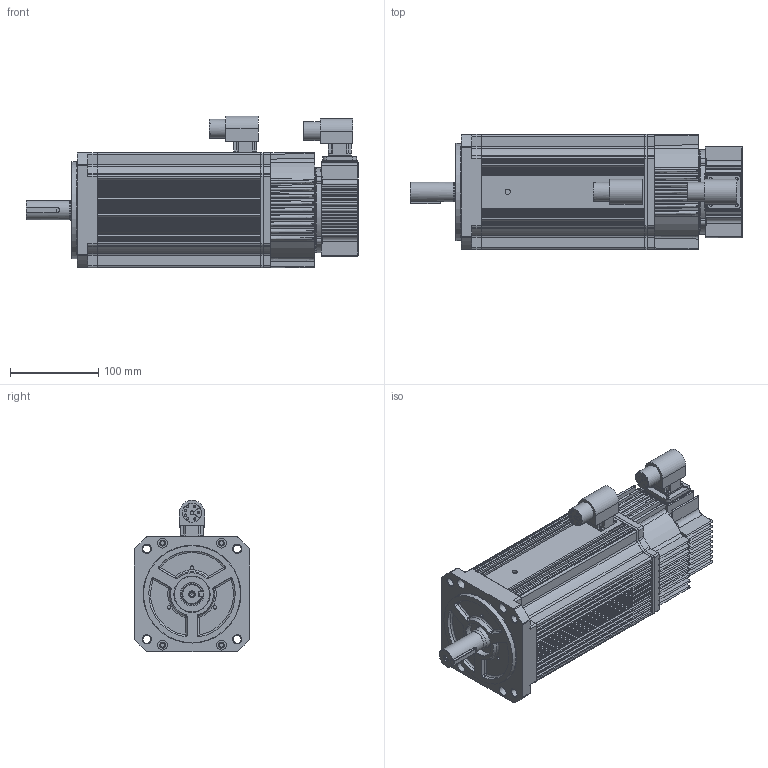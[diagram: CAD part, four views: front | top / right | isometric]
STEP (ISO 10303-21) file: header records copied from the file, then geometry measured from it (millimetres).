
FILE_DESCRIPTION( ( 'Unknown' ), '1' );
FILE_NAME( 'C:/Documents and Settings/chasechiu/桌面/2D&3D帶煞/DTSB13302B3/DTSB13302B3BG3D0K & DTSB13302B-380V機種.stp', 'Unknown', ( 'Unknown' ), ( 'Unknown' ), 'PSStep 14.0', 'Unknown', ' ' );
FILE_SCHEMA( ( 'AUTOMOTIVE_DESIGN { 1 0 10303 214 1 1 1 1 }' ) );
Length unit declared in the file: millimetre
Products named in the file (14): 0S180JLB7BA0P-00_0; 0S331JLA0BP01-00_0; Assem1; 0S302J0A1BP01-01_0; 0S363JD0584BP-01_0; ___(_擗); ___(___δ_; 0S861JA152111-02; \X2\51F8625867B\X0\; \X2\4FDD84C\X0\; 1KW\X2\4EE54E0A752853F05EA\X0\; \X2\8ECD898F96326C34588A724\X0\; \X2\50C5524D7AEF542B937569FD8EF\X0\; \X2\937\X0\
Assembly tree (13 placements, depth 3):
  Assem1
    0S302J0A1BP01-01_0
    0S363JD0584BP-01_0
    ___(_擗)
    ___(___δ_
    0S861JA152111-02
    \X2\51F8625867B\X0\
    \X2\4FDD84C\X0\
    1KW\X2\4EE54E0A752853F05EA\X0\
    \X2\8ECD898F96326C34588A724\X0\
    \X2\50C5524D7AEF542B937569FD8EF\X0\
    \X2\937\X0\
    0S180JLB7BA0P-00_0
      0S331JLA0BP01-00_0
Bounding box: 376.3 x 130.4 x 171.6 mm (x, y, z)
Volume: 4359004.5 mm3; surface area: 441550.4 mm2
Topology: 12 solids, 12 shells, 1747 faces, 4627 edges, 2968 vertices
Faces by surface type: cylinder 773, plane 663, torus 147, bspline 78, cone 66, sphere 20
Full cylindrical faces by diameter (mm): 1.5 x17, 1.926 x2, 1.985 x1, 2.013 x4, 2.4 x2, 2.459 x6, 2.5 x4, 2.585 x2, 2.611 x2, 2.621 x4, 2.637 x1, 2.7 x8, 2.834 x2, 3 x4, 3.25 x4, 3.5 x8, 3.746 x1, 4 x3, 4.134 x3, 5 x9, 6 x2, 6.2 x1, 6.5 x12, 9 x4, 11 x4, 20 x2, 21.5 x2, 22 x1, 24 x1, 24.9 x1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
Entity records: 76411 total; most frequent: CARTESIAN_POINT 19342, DIRECTION 9247, ORIENTED_EDGE 8732, EDGE_CURVE 4366, AXIS2_PLACEMENT_3D 3626, VERTEX_POINT 2897, EDGE_LOOP 2089, LINE 1995
